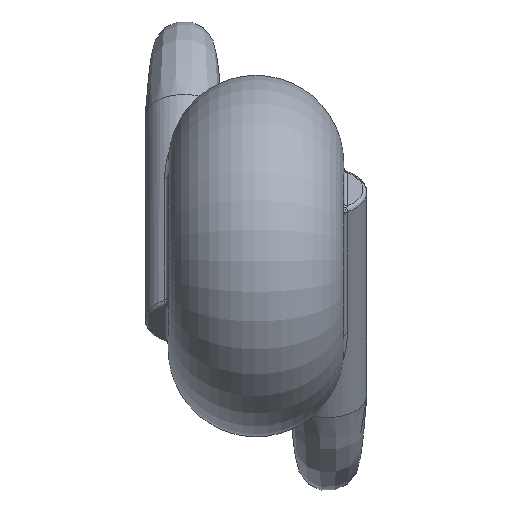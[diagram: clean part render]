
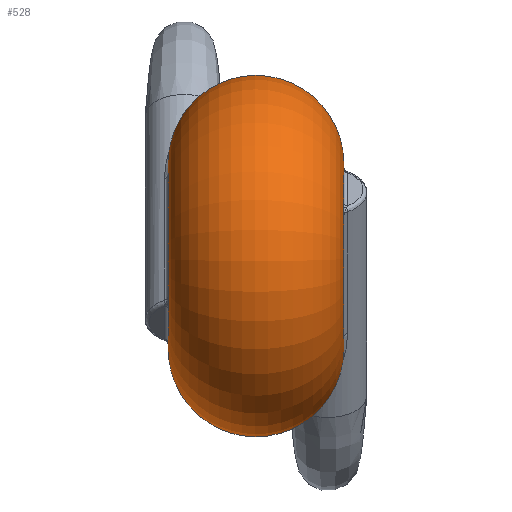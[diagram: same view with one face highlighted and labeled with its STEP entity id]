
A CAD part, left-side view. The second image highlights one B-rep face of the part: STEP entity #528.
In plain terms, the highlighted toroidal (fillet/blend) face has major radius 2.395 mm and minor radius 2.255 mm.
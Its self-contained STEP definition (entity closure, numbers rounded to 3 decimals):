
#20=TOROIDAL_SURFACE('',#582,2.395,2.255);
#77=B_SPLINE_CURVE_WITH_KNOTS('',3,(#1631,#1632,#1633,#1634,#1635,#1636,
#1637,#1638,#1639,#1640,#1641,#1642,#1643,#1644,#1645,#1646),
 .UNSPECIFIED.,.F.,.F.,(4,1,1,1,1,1,1,1,1,1,1,1,1,4),(-0.825,
-0.766,-0.707,-0.589,-0.53,
-0.471,-0.412,-0.353,-0.295,
-0.236,-0.177,-0.118,-0.059,
0.),.UNSPECIFIED.);
#78=B_SPLINE_CURVE_WITH_KNOTS('',3,(#1652,#1653,#1654,#1655,#1656,#1657,
#1658,#1659,#1660,#1661,#1662,#1663,#1664,#1665,#1666,#1667,#1668),
 .UNSPECIFIED.,.F.,.F.,(4,1,1,1,1,1,1,1,1,1,1,1,1,1,4),(-0.825,
-0.766,-0.707,-0.589,-0.53,
-0.471,-0.412,-0.353,-0.339,
-0.295,-0.236,-0.177,-0.118,
-0.059,0.),.UNSPECIFIED.);
#95=FACE_BOUND('',#167,.T.);
#125=FACE_OUTER_BOUND('',#166,.T.);
#166=EDGE_LOOP('',(#417,#418));
#167=EDGE_LOOP('',(#419,#420));
#205=CIRCLE('',#583,2.395);
#206=CIRCLE('',#584,2.395);
#245=VERTEX_POINT('',#1546);
#246=VERTEX_POINT('',#1629);
#247=VERTEX_POINT('',#1650);
#248=VERTEX_POINT('',#1651);
#308=EDGE_CURVE('',#246,#245,#77,.T.);
#310=EDGE_CURVE('',#247,#248,#78,.T.);
#311=EDGE_CURVE('',#247,#248,#205,.T.);
#312=EDGE_CURVE('',#246,#245,#206,.T.);
#417=ORIENTED_EDGE('',*,*,#310,.T.);
#418=ORIENTED_EDGE('',*,*,#311,.F.);
#419=ORIENTED_EDGE('',*,*,#308,.T.);
#420=ORIENTED_EDGE('',*,*,#312,.F.);
#528=ADVANCED_FACE('',(#125,#95),#20,.T.);
#582=AXIS2_PLACEMENT_3D('',#1649,#693,#694);
#583=AXIS2_PLACEMENT_3D('',#1669,#695,#696);
#584=AXIS2_PLACEMENT_3D('',#1670,#697,#698);
#693=DIRECTION('center_axis',(0.,1.,0.));
#694=DIRECTION('ref_axis',(1.,0.,0.));
#695=DIRECTION('center_axis',(0.,-1.,0.));
#696=DIRECTION('ref_axis',(-1.,0.,0.));
#697=DIRECTION('center_axis',(0.,1.,0.));
#698=DIRECTION('ref_axis',(-1.,0.,0.));
#1546=CARTESIAN_POINT('',(1.171,3.7,2.089));
#1629=CARTESIAN_POINT('',(2.386,3.7,0.21));
#1631=CARTESIAN_POINT('Ctrl Pts',(2.386,3.7,0.21));
#1632=CARTESIAN_POINT('Ctrl Pts',(2.488,3.7,0.37));
#1633=CARTESIAN_POINT('Ctrl Pts',(2.701,3.681,0.679));
#1634=CARTESIAN_POINT('Ctrl Pts',(3.167,3.517,1.227));
#1635=CARTESIAN_POINT('Ctrl Pts',(3.599,3.119,1.687));
#1636=CARTESIAN_POINT('Ctrl Pts',(3.749,2.608,2.202));
#1637=CARTESIAN_POINT('Ctrl Pts',(3.674,2.25,2.63));
#1638=CARTESIAN_POINT('Ctrl Pts',(3.396,2.025,3.083));
#1639=CARTESIAN_POINT('Ctrl Pts',(2.972,2.04,3.489));
#1640=CARTESIAN_POINT('Ctrl Pts',(2.518,2.325,3.718));
#1641=CARTESIAN_POINT('Ctrl Pts',(2.15,2.754,3.675));
#1642=CARTESIAN_POINT('Ctrl Pts',(1.887,3.157,3.408));
#1643=CARTESIAN_POINT('Ctrl Pts',(1.677,3.465,3.009));
#1644=CARTESIAN_POINT('Ctrl Pts',(1.461,3.656,2.547));
#1645=CARTESIAN_POINT('Ctrl Pts',(1.276,3.7,2.236));
#1646=CARTESIAN_POINT('Ctrl Pts',(1.171,3.7,2.089));
#1649=CARTESIAN_POINT('Origin',(0.,1.445,0.));
#1650=CARTESIAN_POINT('',(2.386,-0.81,-0.21));
#1651=CARTESIAN_POINT('',(1.171,-0.81,-2.089));
#1652=CARTESIAN_POINT('Ctrl Pts',(2.386,-0.81,-0.21));
#1653=CARTESIAN_POINT('Ctrl Pts',(2.488,-0.81,-0.37));
#1654=CARTESIAN_POINT('Ctrl Pts',(2.701,-0.791,-0.679));
#1655=CARTESIAN_POINT('Ctrl Pts',(3.167,-0.627,-1.227));
#1656=CARTESIAN_POINT('Ctrl Pts',(3.599,-0.229,-1.687));
#1657=CARTESIAN_POINT('Ctrl Pts',(3.749,0.282,-2.202));
#1658=CARTESIAN_POINT('Ctrl Pts',(3.674,0.64,-2.63));
#1659=CARTESIAN_POINT('Ctrl Pts',(3.396,0.866,-3.083));
#1660=CARTESIAN_POINT('Ctrl Pts',(3.078,0.853,-3.387));
#1661=CARTESIAN_POINT('Ctrl Pts',(2.782,0.732,-3.585));
#1662=CARTESIAN_POINT('Ctrl Pts',(2.487,0.529,-3.714));
#1663=CARTESIAN_POINT('Ctrl Pts',(2.15,0.136,-3.675));
#1664=CARTESIAN_POINT('Ctrl Pts',(1.887,-0.267,-3.408));
#1665=CARTESIAN_POINT('Ctrl Pts',(1.677,-0.575,-3.01));
#1666=CARTESIAN_POINT('Ctrl Pts',(1.461,-0.766,-2.547));
#1667=CARTESIAN_POINT('Ctrl Pts',(1.276,-0.81,-2.236));
#1668=CARTESIAN_POINT('Ctrl Pts',(1.171,-0.81,-2.089));
#1669=CARTESIAN_POINT('Origin',(0.,-0.81,0.));
#1670=CARTESIAN_POINT('Origin',(0.,3.7,0.));
